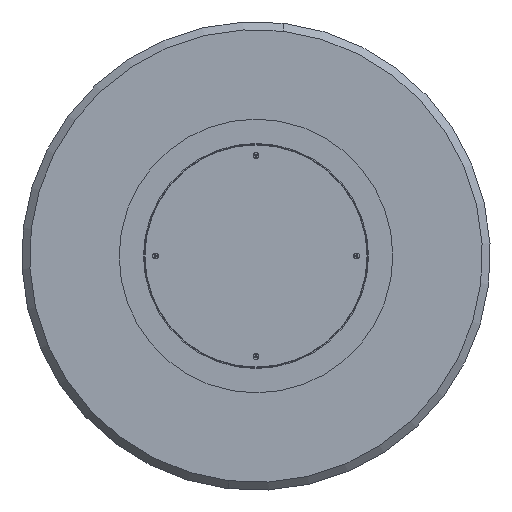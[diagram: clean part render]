
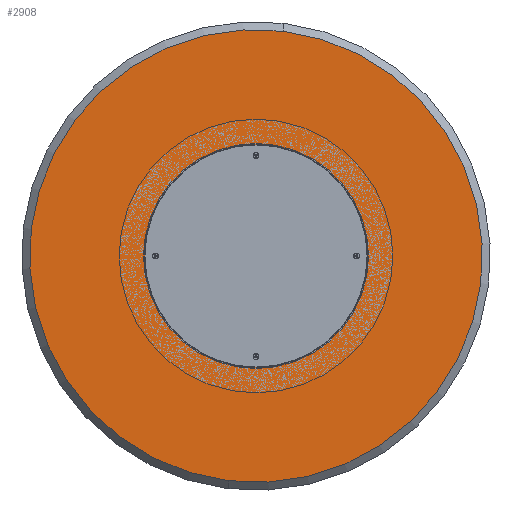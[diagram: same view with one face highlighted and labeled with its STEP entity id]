
A CAD part, front view. The second image highlights one B-rep face of the part: STEP entity #2908.
In plain terms, the highlighted planar face has unit normal (0, -1, 0).
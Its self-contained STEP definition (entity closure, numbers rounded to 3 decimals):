
#83 = DIRECTION ( 'NONE',  ( 0., -1., 0. ) ) ;
#123 = VERTEX_POINT ( 'NONE', #1335 ) ;
#132 = FACE_BOUND ( 'NONE', #997, .T. ) ;
#139 = AXIS2_PLACEMENT_3D ( 'NONE', #4892, #733, #5754 ) ;
#141 = CIRCLE ( 'NONE', #2401, 3.4 ) ;
#152 = CARTESIAN_POINT ( 'NONE',  ( 0., 0., 0. ) ) ;
#184 = EDGE_CURVE ( 'NONE', #5624, #1077, #3182, .T. ) ;
#224 = EDGE_CURVE ( 'NONE', #2030, #5380, #1808, .T. ) ;
#262 = ORIENTED_EDGE ( 'NONE', *, *, #3215, .F. ) ;
#358 = DIRECTION ( 'NONE',  ( 0., 0., -1. ) ) ;
#511 = ORIENTED_EDGE ( 'NONE', *, *, #224, .F. ) ;
#534 = DIRECTION ( 'NONE',  ( 0., -1., 0. ) ) ;
#652 = AXIS2_PLACEMENT_3D ( 'NONE', #3457, #1030, #3822 ) ;
#658 = VERTEX_POINT ( 'NONE', #3930 ) ;
#677 = VERTEX_POINT ( 'NONE', #5798 ) ;
#733 = DIRECTION ( 'NONE',  ( 0., -1., 0. ) ) ;
#763 = CARTESIAN_POINT ( 'NONE',  ( -95., 0., -54.848 ) ) ;
#834 = ORIENTED_EDGE ( 'NONE', *, *, #2485, .T. ) ;
#857 = DIRECTION ( 'NONE',  ( 0., -1., 0. ) ) ;
#997 = EDGE_LOOP ( 'NONE', ( #262, #4876 ) ) ;
#1030 = DIRECTION ( 'NONE',  ( 0., -1., 0. ) ) ;
#1077 = VERTEX_POINT ( 'NONE', #3159 ) ;
#1095 = CARTESIAN_POINT ( 'NONE',  ( 95., 0., -51.448 ) ) ;
#1113 = EDGE_CURVE ( 'NONE', #658, #677, #141, .T. ) ;
#1118 = AXIS2_PLACEMENT_3D ( 'NONE', #5478, #3668, #3175 ) ;
#1220 = DIRECTION ( 'NONE',  ( 0., -1., 0. ) ) ;
#1313 = CARTESIAN_POINT ( 'NONE',  ( 0., 0., 109.697 ) ) ;
#1319 = EDGE_LOOP ( 'NONE', ( #2126, #2736 ) ) ;
#1322 = AXIS2_PLACEMENT_3D ( 'NONE', #4974, #4579, #4092 ) ;
#1335 = CARTESIAN_POINT ( 'NONE',  ( 0., 0., 3.4 ) ) ;
#1538 = AXIS2_PLACEMENT_3D ( 'NONE', #1313, #857, #1710 ) ;
#1594 = EDGE_CURVE ( 'NONE', #5875, #1858, #2406, .T. ) ;
#1710 = DIRECTION ( 'NONE',  ( 0., 0., -1. ) ) ;
#1774 = CARTESIAN_POINT ( 'NONE',  ( 0., 0., 109.697 ) ) ;
#1801 = DIRECTION ( 'NONE',  ( 0., 0., -1. ) ) ;
#1808 = CIRCLE ( 'NONE', #1118, 3.4 ) ;
#1858 = VERTEX_POINT ( 'NONE', #2807 ) ;
#1919 = CIRCLE ( 'NONE', #3296, 3.4 ) ;
#2030 = VERTEX_POINT ( 'NONE', #4819 ) ;
#2075 = FACE_OUTER_BOUND ( 'NONE', #4308, .T. ) ;
#2113 = DIRECTION ( 'NONE',  ( 0., 0., -1. ) ) ;
#2126 = ORIENTED_EDGE ( 'NONE', *, *, #4565, .F. ) ;
#2129 = EDGE_CURVE ( 'NONE', #123, #2292, #3382, .T. ) ;
#2136 = ORIENTED_EDGE ( 'NONE', *, *, #184, .T. ) ;
#2206 = AXIS2_PLACEMENT_3D ( 'NONE', #5678, #83, #3379 ) ;
#2224 = CIRCLE ( 'NONE', #1538, 3.4 ) ;
#2292 = VERTEX_POINT ( 'NONE', #4666 ) ;
#2399 = DIRECTION ( 'NONE',  ( 0., 0., -1. ) ) ;
#2401 = AXIS2_PLACEMENT_3D ( 'NONE', #1774, #4987, #2113 ) ;
#2406 = CIRCLE ( 'NONE', #652, 3.4 ) ;
#2485 = EDGE_CURVE ( 'NONE', #1077, #5624, #3193, .T. ) ;
#2627 = DIRECTION ( 'NONE',  ( 0., -1., 0. ) ) ;
#2736 = ORIENTED_EDGE ( 'NONE', *, *, #1113, .F. ) ;
#2807 = CARTESIAN_POINT ( 'NONE',  ( 95., 0., -58.248 ) ) ;
#2908 = ADVANCED_FACE ( 'NONE', ( #5728, #3917, #132, #2075, #3949 ), #5255, .T. ) ;
#3054 = ORIENTED_EDGE ( 'NONE', *, *, #2129, .F. ) ;
#3159 = CARTESIAN_POINT ( 'NONE',  ( 0., 0., 483. ) ) ;
#3164 = EDGE_CURVE ( 'NONE', #2292, #123, #5329, .T. ) ;
#3175 = DIRECTION ( 'NONE',  ( 0., 0., -1. ) ) ;
#3182 = CIRCLE ( 'NONE', #1322, 483. ) ;
#3193 = CIRCLE ( 'NONE', #2206, 483. ) ;
#3215 = EDGE_CURVE ( 'NONE', #1858, #5875, #3592, .T. ) ;
#3217 = EDGE_CURVE ( 'NONE', #5380, #2030, #1919, .T. ) ;
#3296 = AXIS2_PLACEMENT_3D ( 'NONE', #763, #2627, #4497 ) ;
#3379 = DIRECTION ( 'NONE',  ( 0., 0., -1. ) ) ;
#3382 = CIRCLE ( 'NONE', #5985, 3.4 ) ;
#3457 = CARTESIAN_POINT ( 'NONE',  ( 95., 0., -54.848 ) ) ;
#3540 = EDGE_LOOP ( 'NONE', ( #5703, #3054 ) ) ;
#3592 = CIRCLE ( 'NONE', #4561, 3.4 ) ;
#3668 = DIRECTION ( 'NONE',  ( 0., -1., 0. ) ) ;
#3822 = DIRECTION ( 'NONE',  ( 0., 0., -1. ) ) ;
#3905 = CARTESIAN_POINT ( 'NONE',  ( -95., 0., -51.448 ) ) ;
#3917 = FACE_BOUND ( 'NONE', #1319, .T. ) ;
#3930 = CARTESIAN_POINT ( 'NONE',  ( 0., 0., 113.097 ) ) ;
#3949 = FACE_BOUND ( 'NONE', #3540, .T. ) ;
#4092 = DIRECTION ( 'NONE',  ( 0., 0., -1. ) ) ;
#4101 = CARTESIAN_POINT ( 'NONE',  ( 0., 0., 0. ) ) ;
#4308 = EDGE_LOOP ( 'NONE', ( #834, #2136 ) ) ;
#4497 = DIRECTION ( 'NONE',  ( 0., 0., -1. ) ) ;
#4561 = AXIS2_PLACEMENT_3D ( 'NONE', #5904, #4954, #358 ) ;
#4565 = EDGE_CURVE ( 'NONE', #677, #658, #2224, .T. ) ;
#4579 = DIRECTION ( 'NONE',  ( 0., -1., 0. ) ) ;
#4594 = EDGE_LOOP ( 'NONE', ( #511, #4993 ) ) ;
#4666 = CARTESIAN_POINT ( 'NONE',  ( 0., 0., -3.4 ) ) ;
#4819 = CARTESIAN_POINT ( 'NONE',  ( -95., 0., -58.248 ) ) ;
#4876 = ORIENTED_EDGE ( 'NONE', *, *, #1594, .F. ) ;
#4892 = CARTESIAN_POINT ( 'NONE',  ( 0., 0., 0. ) ) ;
#4954 = DIRECTION ( 'NONE',  ( 0., -1., 0. ) ) ;
#4974 = CARTESIAN_POINT ( 'NONE',  ( 0., 0., 0. ) ) ;
#4987 = DIRECTION ( 'NONE',  ( 0., -1., 0. ) ) ;
#4993 = ORIENTED_EDGE ( 'NONE', *, *, #3217, .F. ) ;
#5028 = CARTESIAN_POINT ( 'NONE',  ( 0., 0., -483. ) ) ;
#5255 = PLANE ( 'NONE',  #139 ) ;
#5329 = CIRCLE ( 'NONE', #5615, 3.4 ) ;
#5380 = VERTEX_POINT ( 'NONE', #3905 ) ;
#5478 = CARTESIAN_POINT ( 'NONE',  ( -95., 0., -54.848 ) ) ;
#5615 = AXIS2_PLACEMENT_3D ( 'NONE', #4101, #1220, #1801 ) ;
#5624 = VERTEX_POINT ( 'NONE', #5028 ) ;
#5678 = CARTESIAN_POINT ( 'NONE',  ( 0., 0., 0. ) ) ;
#5703 = ORIENTED_EDGE ( 'NONE', *, *, #3164, .F. ) ;
#5728 = FACE_BOUND ( 'NONE', #4594, .T. ) ;
#5754 = DIRECTION ( 'NONE',  ( 0., 0., -1. ) ) ;
#5798 = CARTESIAN_POINT ( 'NONE',  ( 0., 0., 106.297 ) ) ;
#5875 = VERTEX_POINT ( 'NONE', #1095 ) ;
#5904 = CARTESIAN_POINT ( 'NONE',  ( 95., 0., -54.848 ) ) ;
#5985 = AXIS2_PLACEMENT_3D ( 'NONE', #152, #534, #2399 ) ;
